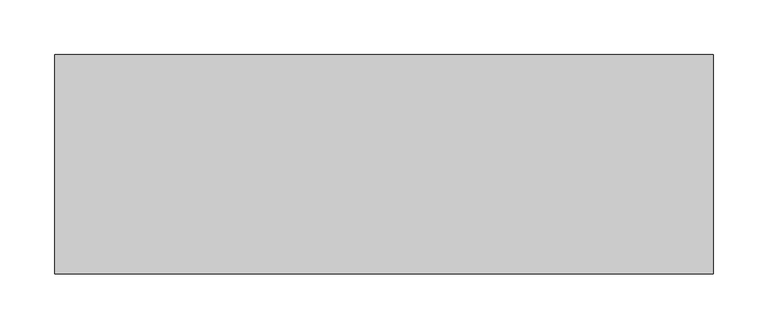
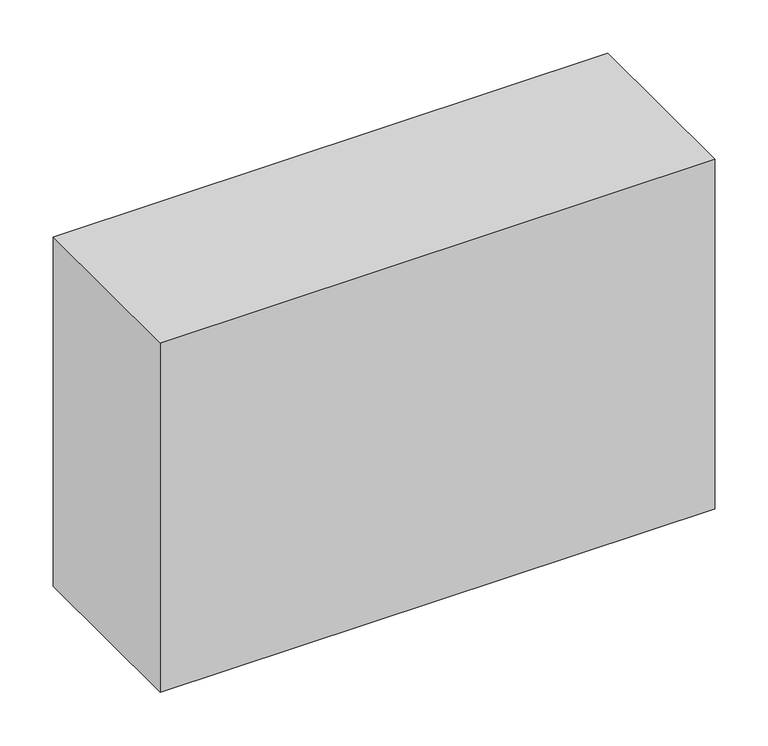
"""IFC4 building model written with IfcOpenShell, lengths in millimetres: proxy geometry, Módulo de Vedação de Concreto Celular - Celucon : MVCC 20x40x60cm (L x A x C)."""

from ifc_helpers import new_model, si_unit, origin, origin_with_axes, place, context, project, spatial, polyline, outline, extrude, source, transform, mapped, element, save


def generic_models_c7845eef(model_context):
    return source(origin(), model_context, "Body", "SweptSolid", [
        extrude(outline(polyline([(300.0, 100.0), (300.0, -100.0), (-300.0, -100.0), (-300.0, 100.0), (300.0, 100.0)])), origin_with_axes(), (0.0, 0.0, 1.0), 400.0),
    ])


if __name__ == "__main__":
    model = new_model("IFC4")
    model_context = context("Model", 3, world=origin())
    ifc_project = project(units=[si_unit("LENGTHUNIT", "METRE", prefix="MILLI")], contexts=[model_context])
    site = spatial("IfcSite", under=ifc_project)
    building = spatial("IfcBuilding", under=site)
    placement = place(None, origin())
    generic_models_shape = generic_models_c7845eef(model_context)
    element("IfcBuildingElementProxy", 1, Name="Módulo de Vedação de Concreto Celular - Celucon : MVCC 20x40x60cm (L x A x C)", ObjectType="Módulo de Vedação de Concreto Celular - Celucon : MVCC 20x40x60cm (L x A x C)", at=placement, inside=building, context=model_context, shape_type="MappedRepresentation", body=[
        mapped(generic_models_shape, transform((0.0, 0.0, 0.0), x_axis=(1.0, 0.0, 0.0), y_axis=(0.0, 1.0, 0.0), z_axis=(0.0, 0.0, 1.0))),
    ])
    save(model, "model.ifc")
